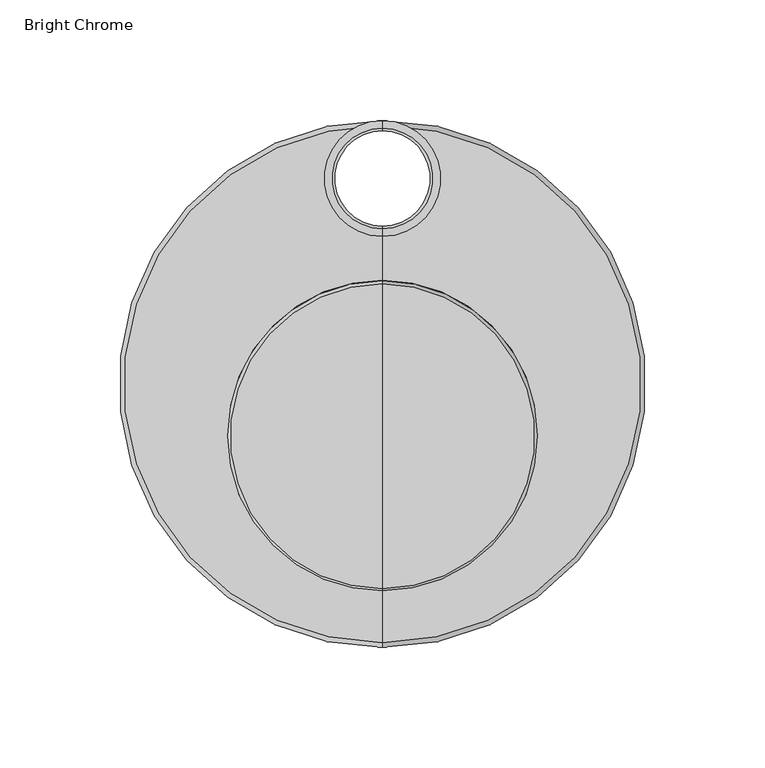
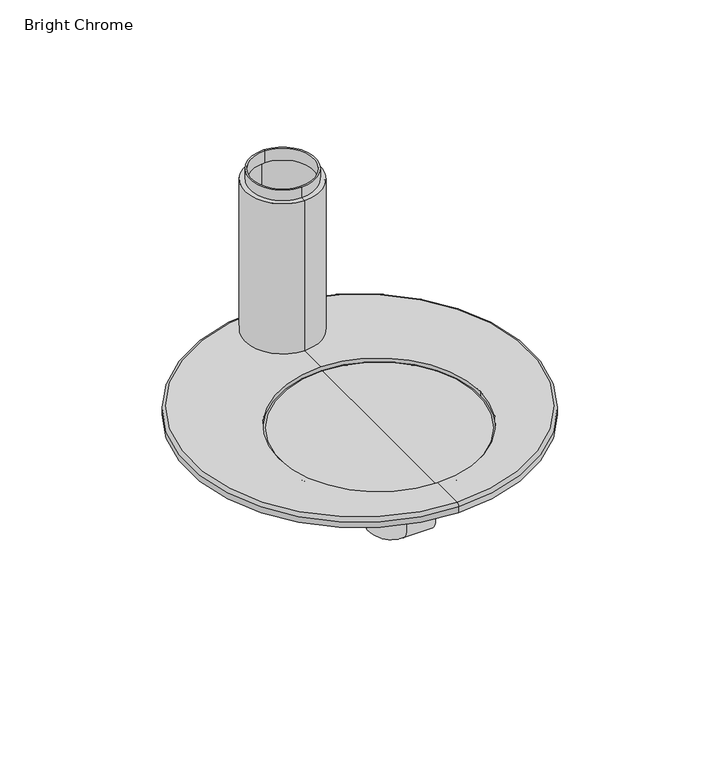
"""IFC4 building model written with IfcOpenShell, lengths in millimetres: flow terminal geometry, z_PlumFixt_Zenith_Font and Tap Riser : Bright Chrome."""

from ifc_helpers import new_model, si_unit, point, frame, origin, place, context, project, spatial, polyline, circle_curve, ellipse_curve, trimmed, outline, extrude, source, transform, mapped, element, save
from ifc_brep_helpers import plane_surface, cylinder_surface, revolved_surface, advanced_brep


def bright_chrome_07e2d693(model_context):
    return source(origin(), model_context, "Body", "SolidModel", [
        advanced_brep(
        [(1.0, 124.2704722, 5.9754703), (1.0, 76.2295278, 5.9754703), (1.0, 76.2295278, 107.0), (1.0, 124.2704722, 107.0), (1.0, 79.4077987, 107.0), (1.0, 121.0922013, 107.0), (1.0, 79.4077987, 114.0), (1.0, 121.0922013, 114.0), (1.0, 80.4077987, 114.0), (1.0, 120.0922013, 114.0), (1.0, 80.4077987, 106.0), (1.0, 120.0922013, 106.0), (1.0, 77.2295278, 106.0), (1.0, 123.2704722, 106.0), (1.0, 77.2295278, 5.9754703), (1.0, 123.2704722, 5.9754703)],
        [
            (0, 1, circle_curve(frame((1.0, 100.25, 5.9754703), z_axis=(0.0, 0.0, 1.0), x_axis=(0.0, -1.0, 0.0)), 24.0204722)),
            (1, 2),
            (2, 3, circle_curve(frame((1.0, 100.25, 107.0), z_axis=(0.0, 0.0, -1.0), x_axis=(0.0, -1.0, 0.0)), 24.0204722)),
            (3, 0),
            (1, 0, circle_curve(frame((1.0, 100.25, 5.9754703), z_axis=(0.0, 0.0, 1.0), x_axis=(0.0, -1.0, 0.0)), 24.0204722)),
            (3, 2, circle_curve(frame((1.0, 100.25, 107.0), z_axis=(0.0, 0.0, -1.0), x_axis=(0.0, -1.0, 0.0)), 24.0204722)),
            (2, 4),
            (4, 5, circle_curve(frame((1.0, 100.25, 107.0), z_axis=(0.0, 0.0, -1.0), x_axis=(0.0, -1.0, 0.0)), 20.8422013)),
            (5, 3),
            (5, 4, circle_curve(frame((1.0, 100.25, 107.0), z_axis=(0.0, 0.0, -1.0), x_axis=(0.0, -1.0, 0.0)), 20.8422013)),
            (4, 6),
            (6, 7, circle_curve(frame((1.0, 100.25, 114.0), z_axis=(0.0, 0.0, -1.0), x_axis=(0.0, -1.0, 0.0)), 20.8422013)),
            (7, 5),
            (7, 6, circle_curve(frame((1.0, 100.25, 114.0), z_axis=(0.0, 0.0, -1.0), x_axis=(0.0, -1.0, 0.0)), 20.8422013)),
            (6, 8),
            (8, 9, circle_curve(frame((1.0, 100.25, 114.0), z_axis=(0.0, 0.0, -1.0), x_axis=(0.0, -1.0, 0.0)), 19.8422013)),
            (9, 7),
            (9, 8, circle_curve(frame((1.0, 100.25, 114.0), z_axis=(0.0, 0.0, -1.0), x_axis=(0.0, -1.0, 0.0)), 19.8422013)),
            (8, 10),
            (10, 11, circle_curve(frame((1.0, 100.25, 106.0), z_axis=(0.0, 0.0, -1.0), x_axis=(0.0, -1.0, 0.0)), 19.8422013)),
            (11, 9),
            (11, 10, circle_curve(frame((1.0, 100.25, 106.0), z_axis=(0.0, 0.0, -1.0), x_axis=(0.0, -1.0, 0.0)), 19.8422013)),
            (10, 12),
            (12, 13, circle_curve(frame((1.0, 100.25, 106.0), z_axis=(0.0, 0.0, -1.0), x_axis=(0.0, -1.0, 0.0)), 23.0204722)),
            (13, 11),
            (13, 12, circle_curve(frame((1.0, 100.25, 106.0), z_axis=(0.0, 0.0, -1.0), x_axis=(0.0, -1.0, 0.0)), 23.0204722)),
            (12, 14),
            (14, 15, circle_curve(frame((1.0, 100.25, 5.9754703), z_axis=(0.0, 0.0, -1.0), x_axis=(0.0, -1.0, 0.0)), 23.0204722)),
            (15, 13),
            (15, 14, circle_curve(frame((1.0, 100.25, 5.9754703), z_axis=(0.0, 0.0, -1.0), x_axis=(0.0, -1.0, 0.0)), 23.0204722)),
            (14, 1),
            (0, 15),
        ],
        [
            cylinder_surface(frame((1.0, 100.25, 0.1735284), z_axis=(0.0, 0.0, -1.0), x_axis=(0.0, -1.0, 0.0)), 24.0204722),
            plane_surface(frame((1.0, 100.25, 107.0), z_axis=(0.0, 0.0, 1.0), x_axis=(0.0, -1.0, 0.0))),
            cylinder_surface(frame((1.0, 100.25, 0.1735284), z_axis=(0.0, 0.0, -1.0), x_axis=(0.0, -1.0, 0.0)), 20.8422013),
            plane_surface(frame((1.0, 100.25, 114.0), z_axis=(0.0, 0.0, 1.0), x_axis=(0.0, -1.0, 0.0))),
            revolved_surface(polyline([(1.0, 80.4077987, 106.0), (1.0, 80.4077987, 114.0)]), (1.0, 100.25, 0.1735284), (0.0, 0.0, -1.0)),
            plane_surface(frame((1.0, 100.25, 106.0), z_axis=(0.0, 0.0, -1.0), x_axis=(0.0, -1.0, 0.0))),
            revolved_surface(polyline([(1.0, 77.2295278, 5.9754703), (1.0, 77.2295278, 106.0)]), (1.0, 100.25, 0.1735284), (0.0, 0.0, -1.0)),
            plane_surface(frame((1.0, 100.25, 5.9754703), z_axis=(0.0, 0.0, -1.0), x_axis=(0.0, -1.0, 0.0))),
        ],
        [
            (0, [[1, 2, 3, 4]]),
            (0, [[5, -4, 6, -2]]),
            (1, [[-3, 7, 8, 9]]),
            (1, [[-6, -9, 10, -7]]),
            (2, [[-8, 11, 12, 13]]),
            (2, [[-10, -13, 14, -11]]),
            (3, [[-12, 15, 16, 17]]),
            (3, [[-14, -17, 18, -15]]),
            (4, [[-16, 19, 20, 21]]),
            (4, [[-18, -21, 22, -19]]),
            (5, [[-20, 23, 24, 25]]),
            (5, [[-22, -25, 26, -23]]),
            (6, [[-24, 27, 28, 29]]),
            (6, [[-26, -29, 30, -27]]),
            (7, [[-28, 31, -1, 32]]),
            (7, [[-30, -32, -5, -31]]),
        ],
    ),
        advanced_brep(
        [(1.0, 122.25, 5.9736354), (1.0, -92.25, 5.9736354), (1.0, -70.83804, 5.9736354), (-63.47, -6.36804, 5.9736354), (1.0, 58.10196, 5.9736354), (1.0, 78.25, 5.9736354), (-21.0, 100.25, 5.9736354), (23.0, 100.25, 5.9736354), (65.47, -6.36804, 5.9736354), (1.0, 124.25, 3.9736354), (1.0, -94.25, 3.9736354), (1.0, 124.25, 0.0), (1.0, -94.25, 0.0), (1.0, 122.25, 0.0), (-21.0, 100.25, 0.0), (1.0, 78.25, 0.0), (1.0, 15.0, 0.0), (23.0, 100.25, 0.0), (65.47, -6.36804, 1.2804145), (-63.47, -6.36804, 1.2804145)],
        [
            (0, 1, circle_curve(frame((1.0, 15.0, 5.9736354), z_axis=(0.0, 0.0, 1.0), x_axis=(0.0, 1.0, 0.0)), 107.25)),
            (1, 2),
            (2, 3, circle_curve(frame((1.0, -6.36804, 5.9736354), z_axis=(0.0, 0.0, -1.0), x_axis=(-1.0, 0.0, 0.0)), 64.47)),
            (3, 4, circle_curve(frame((1.0, -6.36804, 5.9736354), z_axis=(0.0, 0.0, -1.0), x_axis=(-1.0, 0.0, 0.0)), 64.47)),
            (4, 5),
            (5, 6, circle_curve(frame((1.0, 100.25, 5.9736354), z_axis=(0.0, 0.0, -1.0), x_axis=(-1.0, 0.0, 0.0)), 22.0)),
            (6, 0, circle_curve(frame((1.0, 100.25, 5.9736354), z_axis=(0.0, 0.0, -1.0), x_axis=(-1.0, 0.0, 0.0)), 22.0)),
            (1, 0, circle_curve(frame((1.0, 15.0, 5.9736354), z_axis=(0.0, 0.0, 1.0), x_axis=(0.0, 1.0, 0.0)), 107.25)),
            (0, 7, circle_curve(frame((1.0, 100.25, 5.9736354), z_axis=(0.0, 0.0, -1.0), x_axis=(-1.0, 0.0, 0.0)), 22.0)),
            (7, 5, circle_curve(frame((1.0, 100.25, 5.9736354), z_axis=(0.0, 0.0, -1.0), x_axis=(-1.0, 0.0, 0.0)), 22.0)),
            (4, 8, circle_curve(frame((1.0, -6.36804, 5.9736354), z_axis=(0.0, 0.0, -1.0), x_axis=(-1.0, 0.0, 0.0)), 64.47)),
            (8, 2, circle_curve(frame((1.0, -6.36804, 5.9736354), z_axis=(0.0, 0.0, -1.0), x_axis=(-1.0, 0.0, 0.0)), 64.47)),
            (0, 9, circle_curve(frame((1.0, 122.25, 3.9736354), z_axis=(-1.0, 0.0, 0.0), x_axis=(0.0, 1.0, 0.0)), 2.0)),
            (9, 10, circle_curve(frame((1.0, 15.0, 3.9736354), z_axis=(0.0, 0.0, 1.0), x_axis=(0.0, 1.0, 0.0)), 109.25)),
            (10, 1, circle_curve(frame((1.0, -92.25, 3.9736354), z_axis=(-1.0, 0.0, 0.0), x_axis=(0.0, -1.0, 0.0)), 2.0)),
            (10, 9, circle_curve(frame((1.0, 15.0, 3.9736354), z_axis=(0.0, 0.0, 1.0), x_axis=(0.0, 1.0, 0.0)), 109.25)),
            (9, 11),
            (11, 12, circle_curve(frame((1.0, 15.0, 0.0), z_axis=(0.0, 0.0, 1.0), x_axis=(0.0, 1.0, 0.0)), 109.25)),
            (12, 10),
            (12, 11, circle_curve(frame((1.0, 15.0, 0.0), z_axis=(0.0, 0.0, 1.0), x_axis=(0.0, 1.0, 0.0)), 109.25)),
            (11, 13),
            (13, 14, circle_curve(frame((1.0, 100.25, 0.0), z_axis=(0.0, 0.0, 1.0), x_axis=(-1.0, 0.0, 0.0)), 22.0)),
            (14, 15, circle_curve(frame((1.0, 100.25, 0.0), z_axis=(0.0, 0.0, 1.0), x_axis=(-1.0, 0.0, 0.0)), 22.0)),
            (15, 16),
            (16, 12),
            (15, 17, circle_curve(frame((1.0, 100.25, 0.0), z_axis=(0.0, 0.0, 1.0), x_axis=(-1.0, 0.0, 0.0)), 22.0)),
            (17, 13, circle_curve(frame((1.0, 100.25, 0.0), z_axis=(0.0, 0.0, 1.0), x_axis=(-1.0, 0.0, 0.0)), 22.0)),
            (18, 19, circle_curve(frame((1.0, -6.36804, 1.2804145), z_axis=(0.0, 0.0, 1.0), x_axis=(-1.0, 0.0, 0.0)), 64.47)),
            (19, 18, circle_curve(frame((1.0, -6.36804, 1.2804145), z_axis=(0.0, 0.0, 1.0), x_axis=(-1.0, 0.0, 0.0)), 64.47)),
            (18, 8),
            (3, 19),
            (17, 7),
            (6, 14),
        ],
        [
            plane_surface(frame((1.0, 15.0, 5.9736354), z_axis=(0.0, 0.0, 1.0), x_axis=(0.0, 1.0, 0.0))),
            revolved_surface(trimmed(ellipse_curve(frame((1.0, 122.25, 3.9736354), z_axis=(1.0, 0.0, 0.0), x_axis=(0.0, 1.0, 0.0)), 2.0, 2.0), [point((1.0, 124.25, 3.9736354))], [point((1.0, 122.25, 5.9736354))], True, "CARTESIAN"), (1.0, 15.0, -1.0187212), (0.0, 0.0, 1.0)),
            cylinder_surface(frame((1.0, 15.0, -1.0187212), z_axis=(0.0, 0.0, 1.0), x_axis=(0.0, 1.0, 0.0)), 109.25),
            plane_surface(frame((1.0, 15.0, 0.0), z_axis=(0.0, 0.0, -1.0), x_axis=(0.0, 1.0, 0.0))),
            plane_surface(frame((-63.47, -6.36804, 1.2804145), z_axis=(0.0, 0.0, 1.0), x_axis=(0.0, 1.0, 0.0))),
            revolved_surface(polyline([(-63.47, -6.36804, 5.9736354), (-63.47, -6.36804, 1.2804145)]), (1.0, -6.36804, 1.2804145), (0.0, 0.0, 1.0)),
            revolved_surface(polyline([(-21.0, 100.25, 5.973635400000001), (-21.0, 100.25, 0.0)]), (1.0, 100.25, -2.0609582), (0.0, 0.0, 1.0)),
        ],
        [
            (0, [[1, 2, 3, 4, 5, 6, 7]]),
            (0, [[8, 9, 10, -5, 11, 12, -2]]),
            (1, [[-1, 13, 14, 15]]),
            (1, [[-8, -15, 16, -13]]),
            (2, [[-14, 17, 18, 19]]),
            (2, [[-16, -19, 20, -17]]),
            (3, [[-18, 21, 22, 23, 24, 25]]),
            (3, [[-20, -25, -24, 26, 27, -21]]),
            (4, [[28, 29]]),
            (5, [[-28, 30, -11, -4, 31]]),
            (5, [[-29, -31, -3, -12, -30]]),
            (6, [[32, -9, -7, 33, -22, -27]]),
            (6, [[-32, -26, -23, -33, -6, -10]]),
        ],
    ),
        advanced_brep(
        [(1.0, -69.9244631, 4.249674), (1.0, 56.520588, 4.249674), (1.0, 56.520588, 1.749674), (1.0, -69.9244631, 1.749674), (1.0, -6.7019376, 1.749674), (1.0, -6.7019376, 4.249674)],
        [
            (0, 1, circle_curve(frame((1.0, -6.7019376, 4.249674), z_axis=(0.0, 0.0, -1.0), x_axis=(0.0, 1.0, 0.0)), 63.2225255)),
            (1, 2, circle_curve(frame((1.0, 56.520588, 2.999674), z_axis=(-1.0, 0.0, 0.0), x_axis=(0.0, 1.0, 0.0)), 1.25)),
            (2, 3, circle_curve(frame((1.0, -6.7019376, 1.749674), z_axis=(0.0, 0.0, 1.0), x_axis=(0.0, 1.0, 0.0)), 63.2225255)),
            (3, 0, circle_curve(frame((1.0, -69.9244631, 2.999674), z_axis=(-1.0, 0.0, 0.0), x_axis=(0.0, -1.0, 0.0)), 1.25)),
            (1, 0, circle_curve(frame((1.0, -6.7019376, 4.249674), z_axis=(0.0, 0.0, -1.0), x_axis=(0.0, 1.0, 0.0)), 63.2225255)),
            (3, 2, circle_curve(frame((1.0, -6.7019376, 1.749674), z_axis=(0.0, 0.0, 1.0), x_axis=(0.0, 1.0, 0.0)), 63.2225255)),
            (2, 4),
            (4, 3),
            (5, 1),
            (0, 5),
        ],
        [
            revolved_surface(trimmed(ellipse_curve(frame((1.0, 56.520588, 2.999674), z_axis=(1.0, 0.0, 0.0), x_axis=(0.0, 1.0, 0.0)), 1.25, 1.25), [point((1.0, 56.520588, 1.749674))], [point((1.0, 56.520588, 4.249674))], True, "CARTESIAN"), (1.0, -6.7019376, 0.0), (0.0, 0.0, 1.0)),
            plane_surface(frame((1.0, -6.7019376, 1.749674), z_axis=(0.0, 0.0, -1.0), x_axis=(0.0, 1.0, 0.0))),
            plane_surface(frame((1.0, -6.7019376, 4.249674), z_axis=(0.0, 0.0, 1.0), x_axis=(0.0, 1.0, 0.0))),
        ],
        [
            (0, [[1, 2, 3, 4]]),
            (0, [[5, -4, 6, -2]]),
            (1, [[-3, 7, 8]]),
            (1, [[-6, -8, -7]]),
            (2, [[9, -1, 10]]),
            (2, [[-10, -5, -9]]),
        ],
    ),
        advanced_brep(
        [(1.0, 17.6082756, -9.3040084), (1.0, -27.6082756, -9.3040084), (1.0, -56.6303223, 0.0), (1.0, 46.6303223, 0.0), (1.0, 16.5094946, -10.3549967), (1.0, -26.5094946, -10.3549967), (1.0, 16.3191004, -11.4347761), (1.0, -26.3191004, -11.4347761), (1.0, 15.3746862, -12.2272337), (1.0, -25.3746862, -12.2272337), (1.0, -5.0, -12.2272337), (1.0, -5.0, 0.0)],
        [
            (0, 1, circle_curve(frame((1.0, -5.0, -9.3040084), z_axis=(0.0, 0.0, 1.0), x_axis=(0.0, -1.0, 0.0)), 22.6082756)),
            (1, 2, circle_curve(frame((1.0, -16.5771103, 75.0218914), z_axis=(-1.0, 0.0, 0.0), x_axis=(0.0, 1.0, 0.0)), 85.0443648)),
            (2, 3, circle_curve(frame((1.0, -5.0, 0.0), z_axis=(0.0, 0.0, -1.0), x_axis=(0.0, -1.0, 0.0)), 51.6303223)),
            (3, 0, circle_curve(frame((1.0, 6.5771103, 75.0218914), z_axis=(-1.0, 0.0, 0.0), x_axis=(0.0, -1.0, 0.0)), 85.0443648)),
            (1, 0, circle_curve(frame((1.0, -5.0, -9.3040084), z_axis=(0.0, 0.0, 1.0), x_axis=(0.0, -1.0, 0.0)), 22.6082756)),
            (3, 2, circle_curve(frame((1.0, -5.0, 0.0), z_axis=(0.0, 0.0, -1.0), x_axis=(0.0, -1.0, 0.0)), 51.6303223)),
            (4, 5, circle_curve(frame((1.0, -5.0, -10.3549967), z_axis=(0.0, 0.0, 1.0), x_axis=(0.0, -1.0, 0.0)), 21.5094946)),
            (5, 1, circle_curve(frame((1.0, -27.774951, -10.5781308), z_axis=(1.0, 0.0, 0.0), x_axis=(0.0, 1.0, 0.0)), 1.2849781)),
            (0, 4, circle_curve(frame((1.0, 17.774951, -10.5781308), z_axis=(1.0, 0.0, 0.0), x_axis=(0.0, -1.0, 0.0)), 1.2849781)),
            (5, 4, circle_curve(frame((1.0, -5.0, -10.3549967), z_axis=(0.0, 0.0, 1.0), x_axis=(0.0, -1.0, 0.0)), 21.5094946)),
            (6, 7, circle_curve(frame((1.0, -5.0, -11.4347761), z_axis=(0.0, 0.0, 1.0), x_axis=(0.0, -1.0, 0.0)), 21.3191004)),
            (7, 5),
            (4, 6),
            (7, 6, circle_curve(frame((1.0, -5.0, -11.4347761), z_axis=(0.0, 0.0, 1.0), x_axis=(0.0, -1.0, 0.0)), 21.3191004)),
            (8, 9, circle_curve(frame((1.0, -5.0, -12.2272337), z_axis=(0.0, 0.0, 1.0), x_axis=(0.0, -1.0, 0.0)), 20.3746862)),
            (9, 7, circle_curve(frame((1.0, -25.3746862, -11.2682504), z_axis=(-1.0, 0.0, 0.0), x_axis=(0.0, 1.0, 0.0)), 0.9589833)),
            (6, 8, circle_curve(frame((1.0, 15.3746862, -11.2682504), z_axis=(-1.0, 0.0, 0.0), x_axis=(0.0, -1.0, 0.0)), 0.9589833)),
            (9, 8, circle_curve(frame((1.0, -5.0, -12.2272337), z_axis=(0.0, 0.0, 1.0), x_axis=(0.0, -1.0, 0.0)), 20.3746862)),
            (10, 9),
            (8, 10),
            (2, 11),
            (11, 3),
        ],
        [
            revolved_surface(trimmed(ellipse_curve(frame((1.0, -16.5771103, 75.0218914), z_axis=(1.0, 0.0, 0.0), x_axis=(0.0, 1.0, 0.0)), 85.0443648, 85.0443648), [point((1.0, -56.6303223, 0.0))], [point((1.0, -27.6082756, -9.3040084))], True, "CARTESIAN"), (1.0, -5.0, 0.0), (0.0, 0.0, -1.0)),
            revolved_surface(trimmed(ellipse_curve(frame((1.0, -27.774951, -10.5781308), z_axis=(-1.0, 0.0, 0.0), x_axis=(0.0, 1.0, 0.0)), 1.2849781, 1.2849781), [point((1.0, -27.6082756, -9.3040084))], [point((1.0, -26.5094946, -10.3549967))], True, "CARTESIAN"), (1.0, -5.0, 0.0), (0.0, 0.0, -1.0)),
            revolved_surface(polyline([(1.0, -26.5094946, -10.3549967), (1.0, -26.3191004, -11.4347761)]), (1.0, -5.0, 0.0), (0.0, 0.0, -1.0)),
            revolved_surface(trimmed(ellipse_curve(frame((1.0, -25.3746862, -11.2682504), z_axis=(1.0, 0.0, 0.0), x_axis=(0.0, 1.0, 0.0)), 0.9589833, 0.9589833), [point((1.0, -26.3191004, -11.4347761))], [point((1.0, -25.3746862, -12.2272337))], True, "CARTESIAN"), (1.0, -5.0, 0.0), (0.0, 0.0, -1.0)),
            plane_surface(frame((1.0, -5.0, -12.2272337), z_axis=(0.0, 0.0, -1.0), x_axis=(0.0, -1.0, 0.0))),
            plane_surface(frame((1.0, -5.0, 0.0), z_axis=(0.0, 0.0, 1.0), x_axis=(0.0, -1.0, 0.0))),
        ],
        [
            (0, [[1, 2, 3, 4]]),
            (0, [[5, -4, 6, -2]]),
            (1, [[7, 8, -1, 9]]),
            (1, [[10, -9, -5, -8]]),
            (2, [[11, 12, -7, 13]]),
            (2, [[14, -13, -10, -12]]),
            (3, [[15, 16, -11, 17]]),
            (3, [[18, -17, -14, -16]]),
            (4, [[19, -15, 20]]),
            (4, [[-20, -18, -19]]),
            (5, [[-3, 21, 22]]),
            (5, [[-6, -22, -21]]),
        ],
    ),
        extrude(outline(polyline([(-8.0700199, 10.0093191), (9.9254696, 10.0093191), (19.0513346, -5.5057892), (9.9254696, -21.0208976), (-8.0700199, -21.0208976), (-17.1958849, -5.5057892), (-8.0700199, 10.0093191)])), frame((0.0, 0.0, -21.43049), z_axis=(0.0, 0.0, 1.0), x_axis=(1.0, 0.0, 0.0)), (0.0, 0.0, 1.0), 9.0),
        advanced_brep(
        [(31.1519186, -5.8906809, -72.8640161), (31.1519186, -5.8906809, -51.3640161), (12.9277249, -5.8906809, -72.8640161), (12.9277249, -5.8906809, -51.3640161), (11.6777249, -5.8906809, -50.1140161), (-9.8222751, -5.8906809, -50.1140161), (-9.8222751, -5.8906809, -21.43049), (11.6777249, -5.8906809, -21.43049)],
        [
            (0, 1, circle_curve(frame((31.1519186, -5.8906809, -62.1140161), z_axis=(1.0, 0.0, 0.0), x_axis=(0.0, 0.0, 1.0)), 10.75)),
            (1, 0, circle_curve(frame((31.1519186, -5.8906809, -62.1140161), z_axis=(1.0, 0.0, 0.0), x_axis=(0.0, 0.0, 1.0)), 10.75)),
            (0, 2),
            (2, 3, circle_curve(frame((12.9277249, -5.8906809, -62.1140161), z_axis=(1.0, 0.0, 0.0), x_axis=(0.0, 0.0, 1.0)), 10.75)),
            (3, 1),
            (3, 2, circle_curve(frame((12.9277249, -5.8906809, -62.1140161), z_axis=(1.0, 0.0, 0.0), x_axis=(0.0, 0.0, 1.0)), 10.75)),
            (4, 3, circle_curve(frame((12.9277249, -5.8906809, -50.1140161), z_axis=(0.0, -1.0, 0.0), x_axis=(0.0, 0.0, -1.0)), 1.25)),
            (2, 5, circle_curve(frame((12.9277249, -5.8906809, -50.1140161), z_axis=(0.0, 1.0, 0.0), x_axis=(0.0, 0.0, -1.0)), 22.75)),
            (5, 4, circle_curve(frame((0.9277249, -5.8906809, -50.1140161), z_axis=(0.0, 0.0, -1.0), x_axis=(1.0, 0.0, 0.0)), 10.75)),
            (4, 5, circle_curve(frame((0.9277249, -5.8906809, -50.1140161), z_axis=(0.0, 0.0, -1.0), x_axis=(1.0, 0.0, 0.0)), 10.75)),
            (6, 7, circle_curve(frame((0.9277249, -5.8906809, -21.43049), z_axis=(0.0, 0.0, 1.0), x_axis=(1.0, 0.0, 0.0)), 10.75)),
            (7, 6, circle_curve(frame((0.9277249, -5.8906809, -21.43049), z_axis=(0.0, 0.0, 1.0), x_axis=(1.0, 0.0, 0.0)), 10.75)),
            (5, 6),
            (7, 4),
        ],
        [
            plane_surface(frame((31.1519186, 15.0, -62.1140161), z_axis=(1.0, 0.0, 0.0), x_axis=(0.0, 1.0, 0.0))),
            cylinder_surface(frame((31.1519186, -5.8906809, -62.1140161), z_axis=(1.0, 0.0, 0.0), x_axis=(0.0, 0.0, 1.0)), 10.75),
            revolved_surface(trimmed(ellipse_curve(frame((12.9277249, -5.8906809, -62.1140161), z_axis=(1.0, 0.0, 0.0), x_axis=(0.0, 0.0, 1.0)), 10.75, 10.75), [point((12.9277249, -5.8906809, -72.8640161))], [point((12.9277249, -5.8906809, -51.3640161))], True, "CARTESIAN"), (12.9277249, 15.0, -50.1140161), (0.0, 1.0, 0.0)),
            revolved_surface(trimmed(ellipse_curve(frame((12.9277249, -5.8906809, -62.1140161), z_axis=(1.0, 0.0, 0.0), x_axis=(0.0, 0.0, 1.0)), 10.75, 10.75), [point((12.9277249, -5.8906809, -51.3640161))], [point((12.9277249, -5.8906809, -72.8640161))], True, "CARTESIAN"), (12.9277249, 15.0, -50.1140161), (0.0, 1.0, 0.0)),
            plane_surface(frame((0.9277249, 15.0, -21.43049), z_axis=(0.0, 0.0, 1.0), x_axis=(0.0, 1.0, 0.0))),
            cylinder_surface(frame((0.9277249, -5.8906809, -50.1140161), z_axis=(0.0, 0.0, -1.0), x_axis=(1.0, 0.0, 0.0)), 10.75),
        ],
        [
            (0, [[1, 2]]),
            (1, [[-1, 3, 4, 5]]),
            (1, [[-2, -5, 6, -3]]),
            (2, [[7, -4, 8, 9]]),
            (3, [[-8, -6, -7, 10]]),
            (4, [[11, 12]]),
            (5, [[-9, 13, -12, 14]]),
            (5, [[-10, -14, -11, -13]]),
        ],
    ),
    ])


if __name__ == "__main__":
    model = new_model("IFC4")
    model_context = context("Model", 3, world=origin())
    ifc_project = project(units=[si_unit("LENGTHUNIT", "METRE", prefix="MILLI")], contexts=[model_context])
    site = spatial("IfcSite", under=ifc_project)
    building = spatial("IfcBuilding", under=site)
    placement = place(None, origin())
    bright_chrome_shape = bright_chrome_07e2d693(model_context)
    element("IfcFlowTerminal", 1, ObjectType="z_PlumFixt_Zenith_Font and Tap Riser : Bright Chrome", at=placement, inside=building, context=model_context, shape_type="MappedRepresentation", body=[
        mapped(bright_chrome_shape, transform((0.0, 0.0, 0.0), x_axis=(1.0, 0.0, 0.0), y_axis=(0.0, 1.0, 0.0), z_axis=(0.0, 0.0, 1.0))),
    ])
    save(model, "model.ifc")
